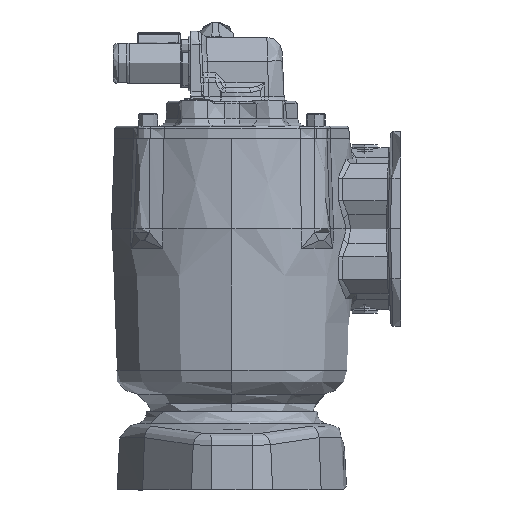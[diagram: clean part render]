
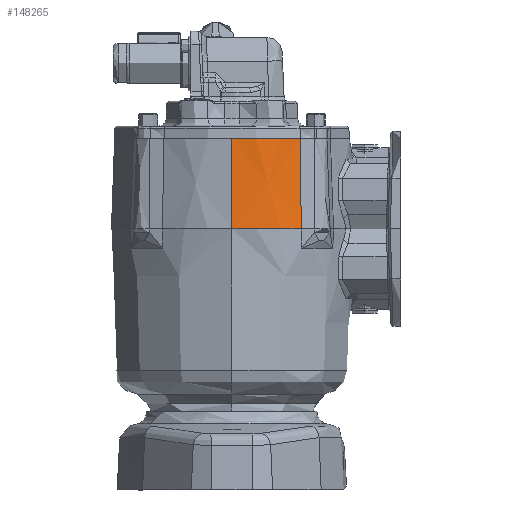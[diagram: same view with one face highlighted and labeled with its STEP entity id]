
A CAD part, left-side view. The second image highlights one B-rep face of the part: STEP entity #148265.
In plain terms, the highlighted conical face has half-angle 2 degrees and reference radius 78.232 mm.
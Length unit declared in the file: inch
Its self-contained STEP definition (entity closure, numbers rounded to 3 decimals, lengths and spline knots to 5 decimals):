
#3896 = ORIENTED_EDGE ( 'NONE', *, *, #72769, .T. ) ;
#9665 = ORIENTED_EDGE ( 'NONE', *, *, #35851, .F. ) ;
#9683 = DIRECTION ( 'NONE',  ( 0., 0., -1. ) ) ;
#11318 = CARTESIAN_POINT ( 'NONE',  ( -4.25092, 3.3296, 2.2645 ) ) ;
#13609 = VERTEX_POINT ( 'NONE', #34533 ) ;
#14744 = CARTESIAN_POINT ( 'NONE',  ( -3.71437, 1.61717, 2.2645 ) ) ;
#15290 = CARTESIAN_POINT ( 'NONE',  ( -1.25, 3.3296, 2.2645 ) ) ;
#21083 = CARTESIAN_POINT ( 'NONE',  ( -3.79389, 1.59322, 0. ) ) ;
#22278 = VERTEX_POINT ( 'NONE', #11318 ) ;
#27571 = CARTESIAN_POINT ( 'NONE',  ( -3.76669, 1.60156, 0.77814 ) ) ;
#34533 = CARTESIAN_POINT ( 'NONE',  ( -3.71437, 1.61717, 2.2645 ) ) ;
#35851 = EDGE_CURVE ( 'NONE', #134231, #160947, #132379, .T. ) ;
#63563 = ORIENTED_EDGE ( 'NONE', *, *, #106014, .T. ) ;
#72769 = EDGE_CURVE ( 'NONE', #134231, #13609, #77531, .T. ) ;
#72861 = CONICAL_SURFACE ( 'NONE', #160386, 3.08, 0.035 ) ;
#77531 = B_SPLINE_CURVE_WITH_KNOTS ( 'NONE', 3,
 ( #144857, #27571, #131988, #14744 ),
 .UNSPECIFIED., .F., .F.,
 ( 4, 4 ),
 ( 0., 1. ),
 .UNSPECIFIED. ) ;
#77855 = DIRECTION ( 'NONE',  ( 0., 0., -1. ) ) ;
#82808 = DIRECTION ( 'NONE',  ( -1., 0., 0. ) ) ;
#86770 = FACE_OUTER_BOUND ( 'NONE', #92768, .T. ) ;
#89662 = LINE ( 'NONE', #128158, #128036 ) ;
#89825 = DIRECTION ( 'NONE',  ( 0., 0., -1. ) ) ;
#90008 = CARTESIAN_POINT ( 'NONE',  ( -4.33, 3.3296, 0. ) ) ;
#92768 = EDGE_LOOP ( 'NONE', ( #63563, #154664, #9665, #3896 ) ) ;
#106014 = EDGE_CURVE ( 'NONE', #13609, #22278, #109872, .T. ) ;
#109872 = CIRCLE ( 'NONE', #129013, 3.00092 ) ;
#115328 = DIRECTION ( 'NONE',  ( -0.035, 0., -0.999 ) ) ;
#128036 = VECTOR ( 'NONE', #115328, 39.37008 ) ;
#128158 = CARTESIAN_POINT ( 'NONE',  ( -4.33, 3.3296, 0. ) ) ;
#128352 = CARTESIAN_POINT ( 'NONE',  ( -1.25, 3.3296, 0. ) ) ;
#129013 = AXIS2_PLACEMENT_3D ( 'NONE', #15290, #89825, #168575 ) ;
#129202 = DIRECTION ( 'NONE',  ( 1., 0., 0. ) ) ;
#131988 = CARTESIAN_POINT ( 'NONE',  ( -3.74018, 1.60955, 1.53298 ) ) ;
#132379 = CIRCLE ( 'NONE', #154287, 3.08 ) ;
#134231 = VERTEX_POINT ( 'NONE', #21083 ) ;
#144857 = CARTESIAN_POINT ( 'NONE',  ( -3.79389, 1.59322, 0. ) ) ;
#148265 = ADVANCED_FACE ( 'NONE', ( #86770 ), #72861, .T. ) ;
#153405 = EDGE_CURVE ( 'NONE', #22278, #160947, #89662, .T. ) ;
#153525 = CARTESIAN_POINT ( 'NONE',  ( -1.25, 3.3296, 0. ) ) ;
#154287 = AXIS2_PLACEMENT_3D ( 'NONE', #128352, #77855, #129202 ) ;
#154664 = ORIENTED_EDGE ( 'NONE', *, *, #153405, .T. ) ;
#160386 = AXIS2_PLACEMENT_3D ( 'NONE', #153525, #9683, #82808 ) ;
#160947 = VERTEX_POINT ( 'NONE', #90008 ) ;
#168575 = DIRECTION ( 'NONE',  ( -1., 0., 0. ) ) ;
